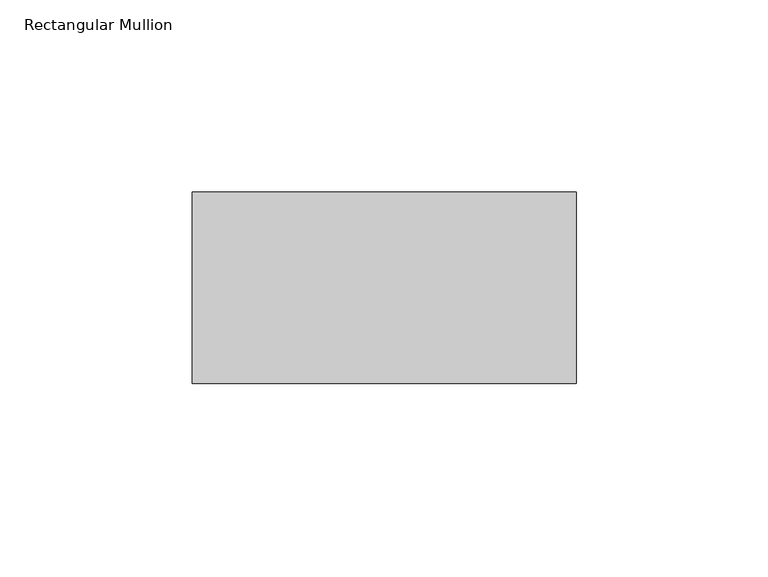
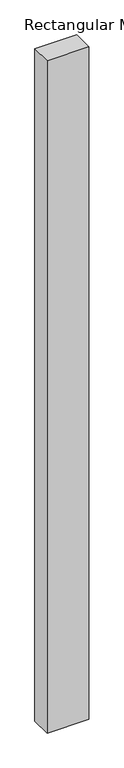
"""IFC4 building model written with IfcOpenShell, lengths in millimetres: member geometry, Rectangular Mullion : Mullion_Curtain Wall_Generic Showcase_50x100mm."""

from ifc_helpers import new_model, si_unit, frame, origin, place, context, project, spatial, polyline, outline, extrude, source, transform, mapped, element, save


def rectangular_mullion_9cc617ca(model_context):
    return source(origin(), model_context, "Body", "SweptSolid", [
        extrude(outline(polyline([(0.0, 0.0), (0.0, -50.0), (-100.0, -50.0), (-100.0, 0.0), (0.0, 0.0)])), frame((0.0, 0.0, -1694.45347), z_axis=(0.0, 0.0, 1.0), x_axis=(1.0, 0.0, 0.0)), (0.0, 0.0, 1.0), 1694.45347),
    ])


if __name__ == "__main__":
    model = new_model("IFC4")
    model_context = context("Model", 3, world=origin())
    ifc_project = project(units=[si_unit("LENGTHUNIT", "METRE", prefix="MILLI")], contexts=[model_context])
    site = spatial("IfcSite", under=ifc_project)
    building = spatial("IfcBuilding", under=site)
    placement = place(None, origin())
    rectangular_mullion_shape = rectangular_mullion_9cc617ca(model_context)
    element("IfcMember", 1, ObjectType="Rectangular Mullion : Mullion_Curtain Wall_Generic Showcase_50x100mm", at=placement, inside=building, context=model_context, shape_type="MappedRepresentation", body=[
        mapped(rectangular_mullion_shape, transform((0.0, 0.0, 0.0), x_axis=(1.0, 0.0, 0.0), y_axis=(0.0, 1.0, 0.0), z_axis=(0.0, 0.0, 1.0))),
    ])
    save(model, "model.ifc")
